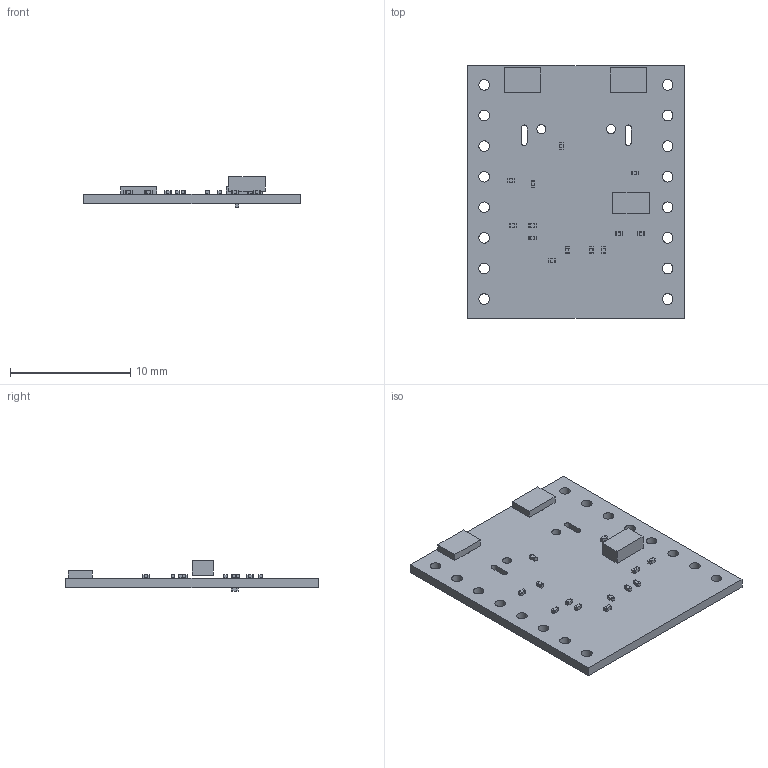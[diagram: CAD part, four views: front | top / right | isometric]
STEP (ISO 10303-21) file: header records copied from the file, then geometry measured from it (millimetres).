
FILE_DESCRIPTION(('Open CASCADE Model'),'2;1');
FILE_NAME('Open CASCADE Shape Model','2026-06-10T16:43:46',('Author'),( 'Open CASCADE'),'Open CASCADE STEP processor 7.5','Open CASCADE 7.5' ,'Unknown');
FILE_SCHEMA(('AUTOMOTIVE_DESIGN { 1 0 10303 214 1 1 1 1 }'));
Length unit declared in the file: millimetre
Products named in the file (25): PCB; Board; Open CASCADE STEP translator 7.5 1.1.1; B2; 7282386544; Extruded; B1; C2; User Library-Chip Cap_MLCC_0201 (0603); C3; C4; C5; C7; C8; C9; C10; C12; C13; C14; C16; C6; U1; 7282385664; C15
Assembly tree (38 placements, depth 4):
  PCB
    Board
      Open CASCADE STEP translator 7.5 1.1.1
    B2
      7282386544
        Extruded
    B1
      7282386544
        Extruded
    C2
      User Library-Chip Cap_MLCC_0201 (0603)
    C3
      User Library-Chip Cap_MLCC_0201 (0603)
    C4
      User Library-Chip Cap_MLCC_0201 (0603)
    C5
      User Library-Chip Cap_MLCC_0201 (0603)
    C7
      User Library-Chip Cap_MLCC_0201 (0603)
    C8
      User Library-Chip Cap_MLCC_0201 (0603)
    C9
      User Library-Chip Cap_MLCC_0201 (0603)
    C10
      User Library-Chip Cap_MLCC_0201 (0603)
    C12
      User Library-Chip Cap_MLCC_0201 (0603)
    C13
      User Library-Chip Cap_MLCC_0201 (0603)
    C14
      User Library-Chip Cap_MLCC_0201 (0603)
    C16
      User Library-Chip Cap_MLCC_0201 (0603)
    C6
      User Library-Chip Cap_MLCC_0201 (0603)
    U1
      7282385664
        Extruded
    C15
      User Library-Chip Cap_MLCC_0201 (0603)
Bounding box: 18 x 21 x 2.55 mm (x, y, z)
Volume: 305.3 mm3; surface area: 912.4 mm2
Topology: 18 solids, 18 shells, 674 faces, 1606 edges, 884 vertices
Faces by surface type: cylinder 306, plane 256, bspline 112
Full cylindrical faces by diameter (mm): 0.762 x2, 0.888 x16
Entity records: 3894 total; most frequent: CARTESIAN_POINT 637, DIRECTION 580, ORIENTED_EDGE 468, EDGE_CURVE 234, AXIS2_PLACEMENT_3D 219, VERTEX_POINT 148, FACE_BOUND 142, EDGE_LOOP 142
